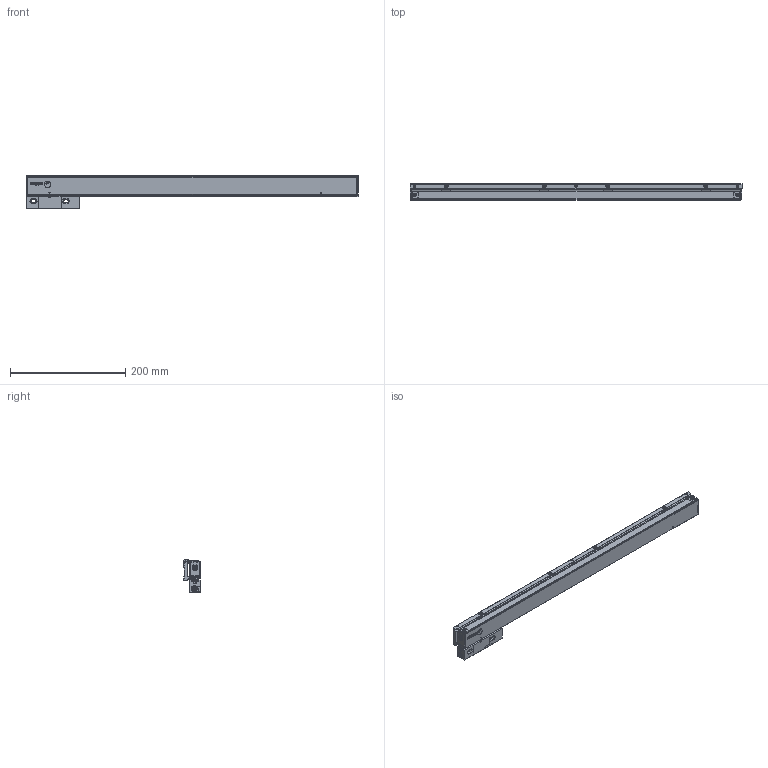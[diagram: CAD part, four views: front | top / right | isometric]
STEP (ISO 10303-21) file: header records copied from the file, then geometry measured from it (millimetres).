
FILE_DESCRIPTION(('Creo Elements/Direct Modeling STEP Export'),'2;1');
FILE_NAME('Regla SV2-470-V01A.stp','2022-11-30T 8:38:43',(''),(''),'Creo Elements/Direct Modeling STEP processor for AP214 (Solid Model)','Creo Elements/Direct Modeling 20.4A 18-Oct-2021 (C) Parametric Technology GmbH','');
FILE_SCHEMA(('AUTOMOTIVE_DESIGN { 1 0 10303 214 1 1 1 1 }'));
Length unit declared in the file: millimetre
Products named in the file (4): SOPORTE_SV3-470; REGLA_SV2-470; CABEZA_RANURADA_REGLA_SV2; REGLA_SV2-470-V01A
Assembly tree (3 placements, depth 2):
  REGLA_SV2-470-V01A
    CABEZA_RANURADA_REGLA_SV2
    REGLA_SV2-470
    SOPORTE_SV3-470
Bounding box: 575 x 28 x 56.2 mm (x, y, z)
Volume: 468289.2 mm3; surface area: 170778.1 mm2
Topology: 3 solids, 9 shells, 1623 faces, 4520 edges, 2957 vertices
Faces by surface type: plane 792, cylinder 577, cone 150, bspline 82, torus 18, sphere 4
Entity records: 63160 total; most frequent: CARTESIAN_POINT 15227, ORIENTED_EDGE 8996, DIRECTION 7616, EDGE_CURVE 4498, VERTEX_POINT 2957, VECTOR 2540, LINE 2540, AXIS2_PLACEMENT_3D 2538
